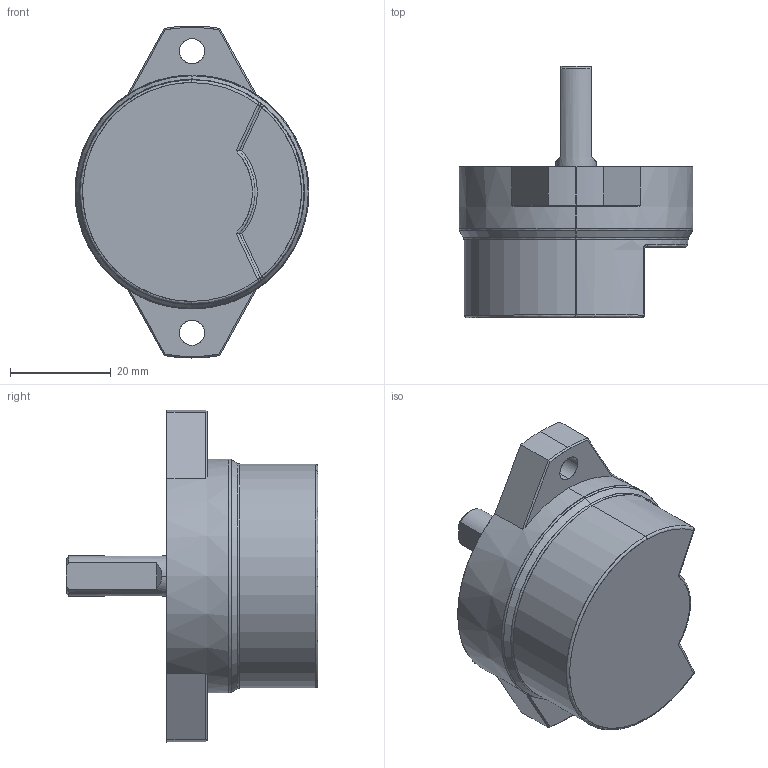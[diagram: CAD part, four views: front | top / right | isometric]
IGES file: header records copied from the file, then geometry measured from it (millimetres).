
Start section: SolidWorks IGES file using analytic representation for surfaces
Global section: file name: C:\3D-DATA\型式\R\【提出用】\IGS\新しいフォルダー\FYN-D3.IGS; native system: SolidWorks 2014; preprocessor: SolidWorks 2014; author: flgijutsu; date: 141008.131016; units: millimetre
Bounding box: 46.5 x 50 x 66 mm (x, y, z)
Surface area: 9056 mm2 (no closed solid volume)
Topology: 0 solids, 0 shells, 62 faces, 784 edges, 784 vertices
Faces by surface type: bspline 33, revolution 29
